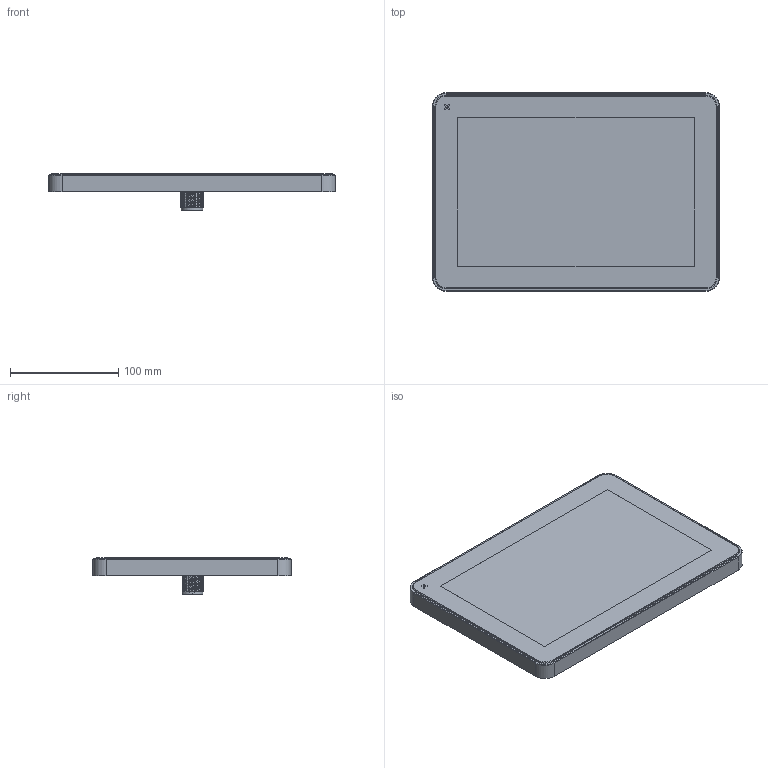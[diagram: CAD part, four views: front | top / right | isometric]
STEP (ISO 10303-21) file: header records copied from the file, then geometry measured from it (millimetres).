
FILE_DESCRIPTION (( 'STEP AP214' ), '1' );
FILE_NAME ('10078124_000.STEP', '2023-10-27T08:26:45', ( '' ), ( '' ), 'SwSTEP 2.0', 'SolidWorks 2022', '' );
FILE_SCHEMA (( 'AUTOMOTIVE_DESIGN' ));
Length unit declared in the file: millimetre
Products named in the file (1): 10078124_000
Bounding box: 264.5 x 183.1 x 33.45 mm (x, y, z)
Volume: 796544.8 mm3; surface area: 123580.5 mm2
Topology: 1 solids, 6 shells, 520 faces, 1371 edges, 880 vertices
Faces by surface type: plane 325, cylinder 123, bspline 52, cone 20
Entity records: 31794 total; most frequent: CARTESIAN_POINT 19593, ORIENTED_EDGE 2742, DIRECTION 2247, EDGE_CURVE 1371, LINE 977, VECTOR 977, VERTEX_POINT 880, AXIS2_PLACEMENT_3D 635
